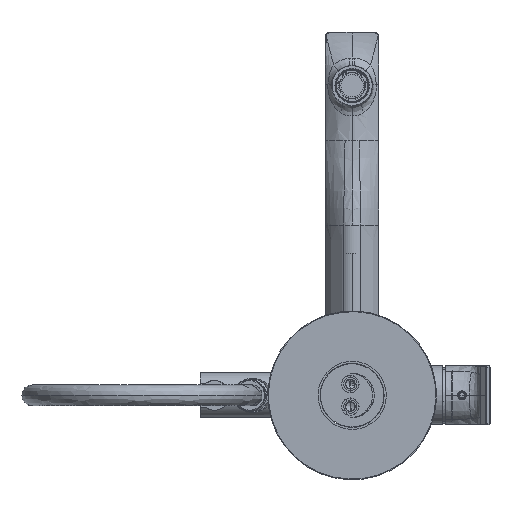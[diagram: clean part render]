
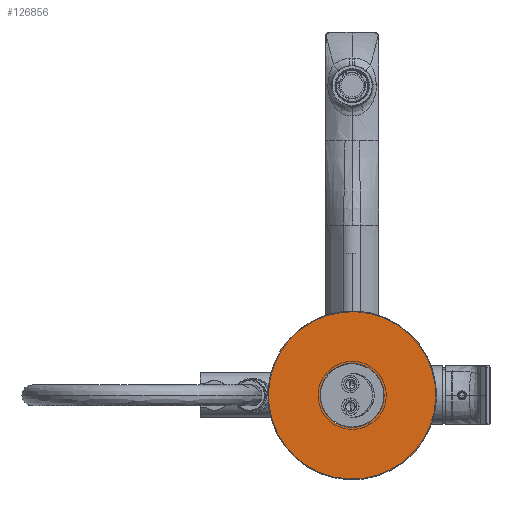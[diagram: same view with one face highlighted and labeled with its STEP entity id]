
A CAD part, front view. The second image highlights one B-rep face of the part: STEP entity #126856.
In plain terms, the highlighted planar face has unit normal (0, -1, 0).
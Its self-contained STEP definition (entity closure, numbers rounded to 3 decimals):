
#126623=CARTESIAN_POINT('',(0.,-692.5,0.));
#126624=DIRECTION('',(0.,1.,0.));
#126625=DIRECTION('',(0.954,0.,0.301));
#126626=AXIS2_PLACEMENT_3D('',#126623,#126624,#126625);
#126628=CARTESIAN_POINT('',(0.,-692.5,0.));
#126629=DIRECTION('',(0.,1.,0.));
#126630=DIRECTION('',(-0.954,0.,-0.301));
#126631=AXIS2_PLACEMENT_3D('',#126628,#126629,#126630);
#126633=CARTESIAN_POINT('',(0.,-692.5,0.));
#126634=DIRECTION('',(0.,-1.,0.));
#126635=DIRECTION('',(0.954,0.,0.301));
#126636=AXIS2_PLACEMENT_3D('',#126633,#126634,#126635);
#126638=CARTESIAN_POINT('',(0.,-692.5,0.));
#126639=DIRECTION('',(0.,-1.,0.));
#126640=DIRECTION('',(-0.954,0.,-0.301));
#126641=AXIS2_PLACEMENT_3D('',#126638,#126639,#126640);
#126700=CARTESIAN_POINT('',(21.698,-692.5,6.839));
#126701=CARTESIAN_POINT('',(-21.698,-692.5,-6.839));
#126702=VERTEX_POINT('',#126700);
#126703=VERTEX_POINT('',#126701);
#126704=CARTESIAN_POINT('',(57.224,-692.5,18.038));
#126705=CARTESIAN_POINT('',(-57.224,-692.5,-18.038));
#126706=VERTEX_POINT('',#126704);
#126707=VERTEX_POINT('',#126705);
#126841=CARTESIAN_POINT('',(0.,-692.5,0.));
#126842=DIRECTION('',(0.,1.,0.));
#126843=DIRECTION('',(0.954,0.,0.301));
#126844=AXIS2_PLACEMENT_3D('',#126841,#126842,#126843);
#126845=PLANE('',#126844);
#126847=ORIENTED_EDGE('',*,*,#126846,.T.);
#126849=ORIENTED_EDGE('',*,*,#126848,.T.);
#126850=EDGE_LOOP('',(#126847,#126849));
#126851=FACE_OUTER_BOUND('',#126850,.F.);
#126852=ORIENTED_EDGE('',*,*,#126821,.T.);
#126853=ORIENTED_EDGE('',*,*,#126835,.T.);
#126854=EDGE_LOOP('',(#126852,#126853));
#126855=FACE_BOUND('',#126854,.F.);
#126856=ADVANCED_FACE('',(#126851,#126855),#126845,.F.);
#126627=CIRCLE('',#126626,60.);
#126632=CIRCLE('',#126631,60.);
#126637=CIRCLE('',#126636,22.75);
#126642=CIRCLE('',#126641,22.75);
#126821=EDGE_CURVE('',#126702,#126703,#126637,.T.);
#126835=EDGE_CURVE('',#126703,#126702,#126642,.T.);
#126846=EDGE_CURVE('',#126706,#126707,#126627,.T.);
#126848=EDGE_CURVE('',#126707,#126706,#126632,.T.);
